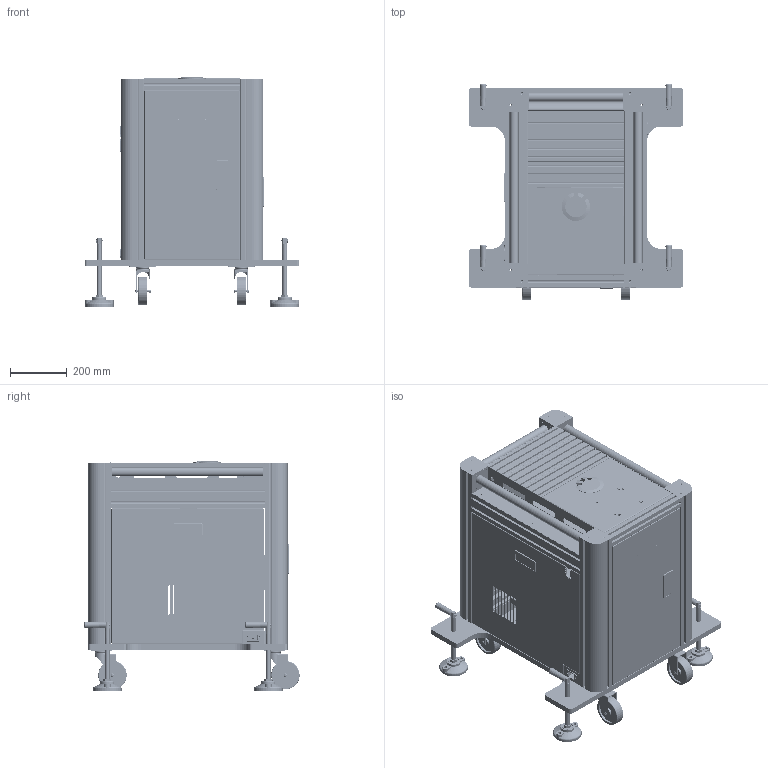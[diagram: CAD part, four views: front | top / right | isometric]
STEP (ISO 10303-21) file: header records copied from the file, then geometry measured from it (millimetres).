
FILE_DESCRIPTION((''),'2;1');
FILE_NAME('00_MWS_HW50_MAIN_ASM_106_ASM','2023-06-30T',('simon.chen'),(''),'CREO PARAMETRIC BY PTC INC, 2015290','CREO PARAMETRIC BY PTC INC, 2015290','');
FILE_SCHEMA(('CONFIG_CONTROL_DESIGN'));
Products named in the file (107): 0_BASE_MWS_HW50_6; 19E3_7_3; 19E2_7_3; 19E1_7_3; 19E0_7_3; 19DF_7_3; 19DE_7_3; 0_CASTER_MWS_HW50_ASM_3_ASM; 19EF_7_3; 19EE_7_3; 0_LEVELING_MOUNT_ASM_25_ASM; 0_AL_EXTRUSION_80-80-635_9; 0_AL_EXTRUSION_80-40-540_10; 0_AL_EXTRUSION_80-80-420_9; 0_AL_EXTRUSION_40-40-340_9; 0_COVER_AL_EXTRUSION_9; 0_COVER_AL_EXTRUSION-2_6; 0_COVER_AL_EXTRUSION-3_6; B6E7_6; 3D-PEM-M4_1_6; 240E_1_6; 0_BRACKET_SLIDER_R_ASM_5_ASM; 0_BRACKET_SLIDER_L_ASM_5_ASM; B66F_6; B672_9; 0_SLIDER_SL-18-T_ASM_6_ASM; 0_BRACKET_BASE_SLIDER_6; 5BC2_10; 0_BRACKET_SPRING_LATCH_10; 0_BRACKET_SPRING_LATCH_ASM_4_ASM; 0_SPRING_LATCH-1_7; 0_SPRING_LATCH-2_8; 0_SPRING_LATCH_ASM_5_ASM; 3D-IS004_8; 0_BRACKET_BASE_SLIDER_ASM_14_ASM; 0_AL_EXTRUSION_80-80-65-3_9; 0_AL_HIDDEN_CONNECTOR_10; 0_SCREW_M8X30L_9; 0_BRACKET_MWS_L_7; 0_BRACKET_MWS_R_6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
Assembly tree (187 placements, depth 4):
  00_MWS_HW50_MAIN_ASM_106_ASM
    0_BASE_MWS_HW50_6
    0_CASTER_MWS_HW50_ASM_3_ASM  x4
      19E3_7_3
      19E2_7_3
      19E1_7_3
      19E0_7_3
      19DF_7_3
      19DE_7_3
    0_LEVELING_MOUNT_ASM_25_ASM  x4
      19EF_7_3
      19EE_7_3
    0_AL_EXTRUSION_80-80-635_9  x4
    0_AL_EXTRUSION_80-40-540_10  x2
    0_AL_EXTRUSION_80-80-420_9
    0_AL_EXTRUSION_40-40-340_9  x2
    0_COVER_AL_EXTRUSION_9  x2
    0_COVER_AL_EXTRUSION-2_6
    0_COVER_AL_EXTRUSION-3_6
    0_BRACKET_SLIDER_L_ASM_5_ASM
      B6E7_6
      3D-PEM-M4_1_6  x4
      0_BRACKET_SLIDER_R_ASM_5_ASM
        240E_1_6
        3D-PEM-M4_1_6  x4
    0_SLIDER_SL-18-T_ASM_6_ASM  x2
      B66F_6
      B672_9
    0_BRACKET_BASE_SLIDER_ASM_14_ASM
      0_BRACKET_BASE_SLIDER_6
      3D-PEM-M4_1_6  x5
      5BC2_10  x4
      0_BRACKET_SPRING_LATCH_ASM_4_ASM
        0_BRACKET_SPRING_LATCH_10
        3D-PEM-M4_1_6  x4
      0_SPRING_LATCH_ASM_5_ASM
        0_SPRING_LATCH-1_7
        0_SPRING_LATCH-2_8
      3D-IS004_8
    0_AL_EXTRUSION_80-80-65-3_9
    0_AL_HIDDEN_CONNECTOR_10  x12
    0_SCREW_M8X30L_9  x4
    0_BRACKET_MWS_L_7
    0_BRACKET_MWS_R_6
    0_BRACKET_MWS_F_7
    0_BASE_ROBOT_10
    0_COVER_BASE_ROBOT_9
    0_ARMREST_6  x2
    0_AL_EXTRUSION_15-90-340-8_9  x3
    5E35_9
    51C9_8
    3D-PEM-M4_12  x7
    4F7E_9
    4E81_9
    4E7E_9
    A_C5FDB7991_ASM_10_ASM  x3
      __-4779_9
      3C52_10
      ___K-5915_9
      ___K-6257_9
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Bounding box: 754 x 755.38 x 804 mm (x, y, z)
Volume: 22346791 mm3; surface area: 11133589.2 mm2
Topology: 206 solids, 216 shells, 12716 faces, 34073 edges, 21959 vertices
Faces by surface type: plane 4757, cone 3934, cylinder 3491, torus 412, bspline 70, extrusion 50, sphere 2
Entity records: 260427 total; most frequent: CARTESIAN_POINT 53991, DIRECTION 45072, ORIENTED_EDGE 42012, EDGE_CURVE 21006, AXIS2_PLACEMENT_3D 16477, VERTEX_POINT 13445, VECTOR 12118, LINE 12068
